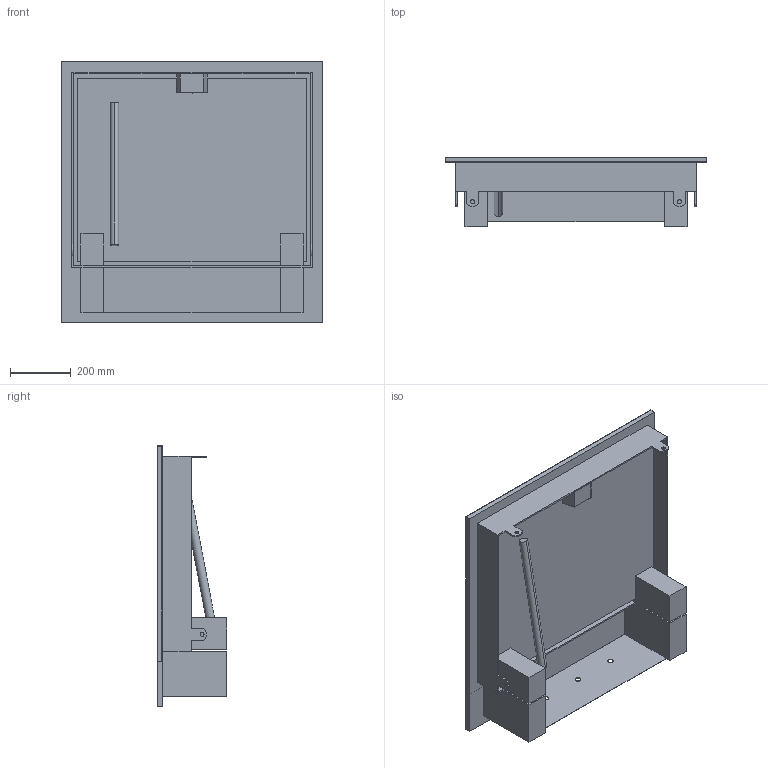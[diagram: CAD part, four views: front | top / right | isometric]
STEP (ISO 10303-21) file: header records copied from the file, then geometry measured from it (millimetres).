
FILE_DESCRIPTION((''),'2;1');
FILE_NAME('51498128','2020-06-17T10:30:01',('slc'),('HUBER SE'),'CREO PARAMETRIC BY PTC INC, 2019224','CREO PARAMETRIC BY PTC INC, 2019224','');
FILE_SCHEMA(('AUTOMOTIVE_DESIGN { 1 0 10303 214 1 1 1 1 }'));
Length unit declared in the file: millimetre
Products named in the file (1): 51498128
Bounding box: 860 x 228 x 856 mm (x, y, z)
Volume: 41881338.1 mm3; surface area: 3001837.5 mm2
Topology: 2 solids, 2 shells, 110 faces, 308 edges, 202 vertices
Faces by surface type: plane 84, cylinder 26
Entity records: 4153 total; most frequent: CARTESIAN_POINT 622, ORIENTED_EDGE 616, DIRECTION 584, EDGE_CURVE 308, VECTOR 252, LINE 252, VERTEX_POINT 202, AXIS2_PLACEMENT_3D 166
